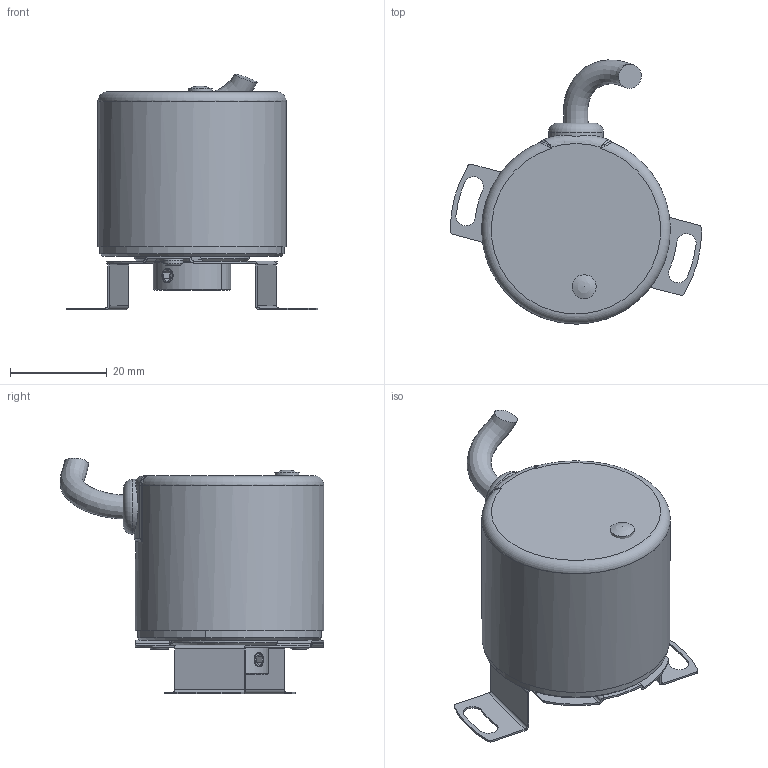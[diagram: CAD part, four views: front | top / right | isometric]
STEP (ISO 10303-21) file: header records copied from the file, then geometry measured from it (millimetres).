
FILE_DESCRIPTION(/* description */ (''),/* implementation_level */ '2;1');
FILE_NAME(/* name */ '07 编码器 IP54-BRT38m-8mm盲孔.stp',/* time_stamp */ '2024-06-13T10:22:55+08:00',/* author */ (''),/* organization */ (''),/* preprocessor_version */ 'ST-DEVELOPER v16.7',/* originating_system */ 'SIEMENS PLM Software NX 12.0',/* authorisation */ '');
FILE_SCHEMA (('AP203_CONFIGURATION_CONTROLLED_3D_DESIGN_OF_MECHANICAL_PARTS_AND_ASSEMBLIES_MIM_LF { 1 0 10303 403 2 1 2}'));
Length unit declared in the file: millimetre
Products named in the file (1): Li Y502C912Ezxcj
Bounding box: 52 x 54.54 x 48.78 mm (x, y, z)
Volume: 17409.8 mm3; surface area: 19091.9 mm2
Topology: 11 solids, 11 shells, 230 faces, 596 edges, 420 vertices
Faces by surface type: cylinder 109, plane 87, torus 11, bspline 11, cone 11, sphere 1
Full cylindrical faces by diameter (mm): 2.924 x2, 4.021 x2, 5 x1, 5.5 x1, 11.405 x1, 14.789 x1, 23.9 x1, 37 x1, 39 x1
Entity records: 8677 total; most frequent: CARTESIAN_POINT 2424, DIRECTION 1144, ORIENTED_EDGE 1064, EDGE_CURVE 532, AXIS2_PLACEMENT_3D 436, VERTEX_POINT 355, EDGE_LOOP 277, LINE 272
